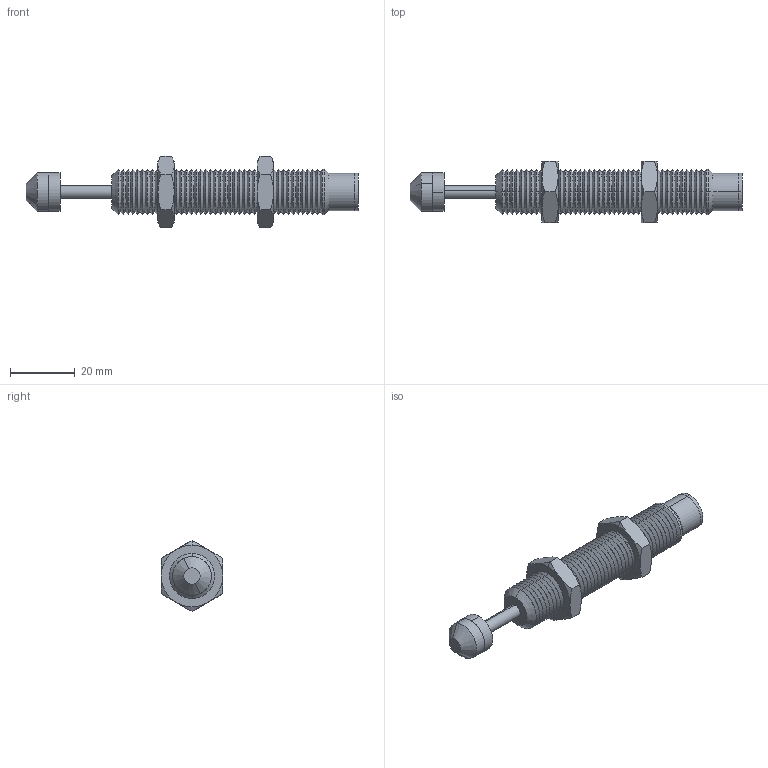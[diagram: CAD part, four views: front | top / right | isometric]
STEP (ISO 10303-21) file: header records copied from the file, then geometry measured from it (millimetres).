
FILE_DESCRIPTION (( 'STEP AP203' ), '1' );
FILE_NAME ('68002.W0148.step', '2017-02-27T15:54:49', ( 'User' ), ( '' ), 'SwSTEP 2.0', 'SolidWorks 2009', '' );
FILE_SCHEMA (( 'CONFIG_CONTROL_DESIGN' ));
Length unit declared in the file: millimetre
Products named in the file (8): 68002.W0148; Part1_68002.W0148; Part2_68002.W0148; Part3_68002.W0148; Part4_68002.W0148; Part5_68002.W0148; Part6_68002.W0148; Part7_68002.W0148
Assembly tree (8 placements, depth 2):
  68002.W0148
    Part1_68002.W0148
    Part3_68002.W0148
    Part5_68002.W0148
    Part6_68002.W0148  x2
    Part2_68002.W0148
    Part7_68002.W0148
    Part4_68002.W0148
Bounding box: 102.5 x 19 x 21.94 mm (x, y, z)
Volume: 12125.5 mm3; surface area: 9614.7 mm2
Topology: 8 solids, 8 shells, 275 faces, 556 edges, 300 vertices
Faces by surface type: cone 204, plane 43, cylinder 26, torus 2
Entity records: 7356 total; most frequent: DIRECTION 1252, CARTESIAN_POINT 1180, ORIENTED_EDGE 1008, AXIS2_PLACEMENT_3D 510, EDGE_CURVE 504, VERTEX_POINT 270, EDGE_LOOP 262, ADVANCED_FACE 251
